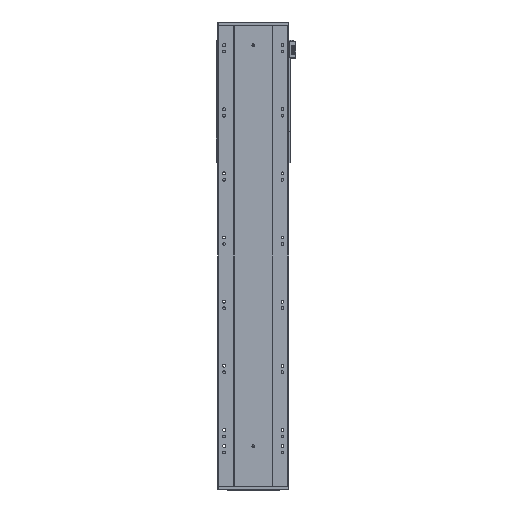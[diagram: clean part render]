
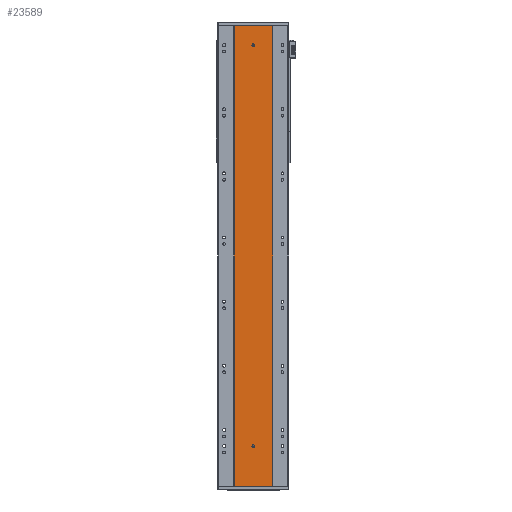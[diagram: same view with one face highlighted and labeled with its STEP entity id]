
A CAD part, front view. The second image highlights one B-rep face of the part: STEP entity #23589.
In plain terms, the highlighted planar face has unit normal (0, -1, 0).
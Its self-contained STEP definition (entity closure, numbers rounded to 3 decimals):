
#66 = VECTOR ( 'NONE', #37582, 1000. ) ;
#194 = FACE_OUTER_BOUND ( 'NONE', #49915, .T. ) ;
#507 = VERTEX_POINT ( 'NONE', #16510 ) ;
#1580 = CARTESIAN_POINT ( 'NONE',  ( -60., 0., 1435. ) ) ;
#1694 = LINE ( 'NONE', #20654, #56511 ) ;
#2130 = ORIENTED_EDGE ( 'NONE', *, *, #57515, .F. ) ;
#2437 = AXIS2_PLACEMENT_3D ( 'NONE', #13357, #27195, #31997 ) ;
#4670 = CIRCLE ( 'NONE', #43878, 4. ) ;
#5880 = EDGE_LOOP ( 'NONE', ( #17477, #30078 ) ) ;
#6620 = DIRECTION ( 'NONE',  ( 0., -1., 0. ) ) ;
#7251 = DIRECTION ( 'NONE',  ( 0., 0., -1. ) ) ;
#8446 = CIRCLE ( 'NONE', #35987, 4. ) ;
#10814 = EDGE_CURVE ( 'NONE', #39104, #507, #4670, .T. ) ;
#11675 = EDGE_CURVE ( 'NONE', #49347, #36537, #36866, .T. ) ;
#12415 = LINE ( 'NONE', #61384, #22146 ) ;
#12833 = CARTESIAN_POINT ( 'NONE',  ( 0., 0., 125. ) ) ;
#13357 = CARTESIAN_POINT ( 'NONE',  ( 0., 0., 125. ) ) ;
#14302 = EDGE_CURVE ( 'NONE', #61121, #55782, #59165, .T. ) ;
#15684 = DIRECTION ( 'NONE',  ( 0., 0., 1. ) ) ;
#16510 = CARTESIAN_POINT ( 'NONE',  ( 0., 0., 121. ) ) ;
#16616 = EDGE_CURVE ( 'NONE', #507, #39104, #57449, .T. ) ;
#17477 = ORIENTED_EDGE ( 'NONE', *, *, #16616, .F. ) ;
#17597 = CARTESIAN_POINT ( 'NONE',  ( -60., 0., 0. ) ) ;
#18481 = DIRECTION ( 'NONE',  ( 0., 0., -1. ) ) ;
#19484 = DIRECTION ( 'NONE',  ( 0., 0., -1. ) ) ;
#19569 = ORIENTED_EDGE ( 'NONE', *, *, #53615, .F. ) ;
#20248 = DIRECTION ( 'NONE',  ( 0., 0., -1. ) ) ;
#20654 = CARTESIAN_POINT ( 'NONE',  ( -60., 0., 1435. ) ) ;
#22146 = VECTOR ( 'NONE', #41889, 1000. ) ;
#23589 = ADVANCED_FACE ( 'NONE', ( #38510, #52013, #194 ), #49668, .F. ) ;
#24082 = AXIS2_PLACEMENT_3D ( 'NONE', #29089, #48198, #19484 ) ;
#24928 = VERTEX_POINT ( 'NONE', #56980 ) ;
#25466 = CARTESIAN_POINT ( 'NONE',  ( 60., 0., 0. ) ) ;
#26453 = VERTEX_POINT ( 'NONE', #60759 ) ;
#27195 = DIRECTION ( 'NONE',  ( 0., -1., 0. ) ) ;
#29089 = CARTESIAN_POINT ( 'NONE',  ( 0., 0., 1375. ) ) ;
#29189 = CARTESIAN_POINT ( 'NONE',  ( -60., 0., 0. ) ) ;
#29300 = ORIENTED_EDGE ( 'NONE', *, *, #14302, .F. ) ;
#30078 = ORIENTED_EDGE ( 'NONE', *, *, #10814, .F. ) ;
#31997 = DIRECTION ( 'NONE',  ( 0., 0., -1. ) ) ;
#33227 = CARTESIAN_POINT ( 'NONE',  ( 0., 0., 1371. ) ) ;
#34643 = LINE ( 'NONE', #48060, #66 ) ;
#35538 = CARTESIAN_POINT ( 'NONE',  ( 0., 0., 1375. ) ) ;
#35670 = AXIS2_PLACEMENT_3D ( 'NONE', #1580, #45269, #15684 ) ;
#35987 = AXIS2_PLACEMENT_3D ( 'NONE', #35538, #6620, #7251 ) ;
#36537 = VERTEX_POINT ( 'NONE', #25466 ) ;
#36866 = LINE ( 'NONE', #17597, #48868 ) ;
#37171 = EDGE_CURVE ( 'NONE', #26453, #24928, #12415, .T. ) ;
#37582 = DIRECTION ( 'NONE',  ( 0., 0., -1. ) ) ;
#38510 = FACE_BOUND ( 'NONE', #41155, .T. ) ;
#39104 = VERTEX_POINT ( 'NONE', #61522 ) ;
#41155 = EDGE_LOOP ( 'NONE', ( #29300, #19569 ) ) ;
#41889 = DIRECTION ( 'NONE',  ( 1., 0., 0. ) ) ;
#42101 = DIRECTION ( 'NONE',  ( 1., 0., 0. ) ) ;
#43878 = AXIS2_PLACEMENT_3D ( 'NONE', #12833, #60619, #18481 ) ;
#45269 = DIRECTION ( 'NONE',  ( 0., 1., 0. ) ) ;
#45354 = ORIENTED_EDGE ( 'NONE', *, *, #52500, .T. ) ;
#45899 = CARTESIAN_POINT ( 'NONE',  ( 0., 0., 1379. ) ) ;
#48060 = CARTESIAN_POINT ( 'NONE',  ( 60., 0., 1435. ) ) ;
#48198 = DIRECTION ( 'NONE',  ( 0., -1., 0. ) ) ;
#48868 = VECTOR ( 'NONE', #42101, 1000. ) ;
#49347 = VERTEX_POINT ( 'NONE', #29189 ) ;
#49668 = PLANE ( 'NONE',  #35670 ) ;
#49915 = EDGE_LOOP ( 'NONE', ( #51416, #2130, #60926, #45354 ) ) ;
#51416 = ORIENTED_EDGE ( 'NONE', *, *, #11675, .T. ) ;
#52013 = FACE_BOUND ( 'NONE', #5880, .T. ) ;
#52500 = EDGE_CURVE ( 'NONE', #26453, #49347, #1694, .T. ) ;
#53615 = EDGE_CURVE ( 'NONE', #55782, #61121, #8446, .T. ) ;
#55782 = VERTEX_POINT ( 'NONE', #45899 ) ;
#56511 = VECTOR ( 'NONE', #20248, 1000. ) ;
#56980 = CARTESIAN_POINT ( 'NONE',  ( 60., 0., 1435. ) ) ;
#57449 = CIRCLE ( 'NONE', #2437, 4. ) ;
#57515 = EDGE_CURVE ( 'NONE', #24928, #36537, #34643, .T. ) ;
#59165 = CIRCLE ( 'NONE', #24082, 4. ) ;
#60619 = DIRECTION ( 'NONE',  ( 0., -1., 0. ) ) ;
#60759 = CARTESIAN_POINT ( 'NONE',  ( -60., 0., 1435. ) ) ;
#60926 = ORIENTED_EDGE ( 'NONE', *, *, #37171, .F. ) ;
#61121 = VERTEX_POINT ( 'NONE', #33227 ) ;
#61384 = CARTESIAN_POINT ( 'NONE',  ( -60., 0., 1435. ) ) ;
#61522 = CARTESIAN_POINT ( 'NONE',  ( 0., 0., 129. ) ) ;
